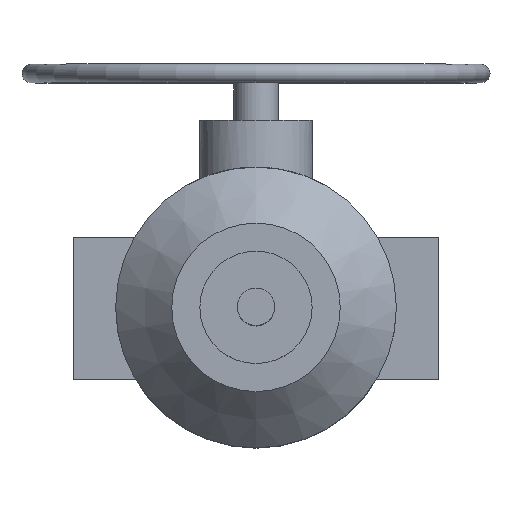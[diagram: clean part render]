
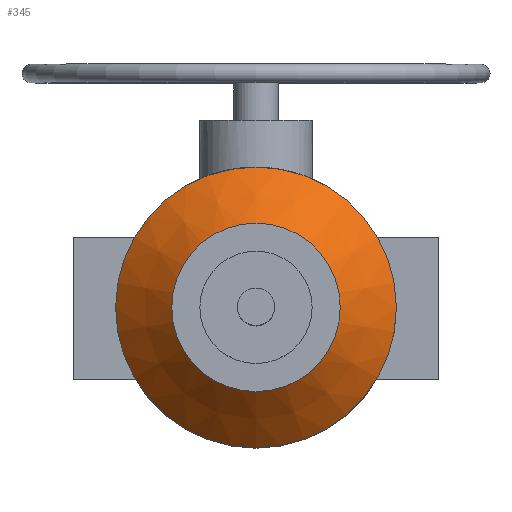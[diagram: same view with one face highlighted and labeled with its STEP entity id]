
A CAD part, top view. The second image highlights one B-rep face of the part: STEP entity #345.
In plain terms, the highlighted conical face has half-angle 45 degrees and reference radius 60 mm.
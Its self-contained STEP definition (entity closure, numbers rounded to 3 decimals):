
#345=ADVANCED_FACE('',(#1293,#1295),#1297,.T.);
#1293=FACE_BOUND('',#1294,.T.);
#1294=EDGE_LOOP('',(#2092,#2093));
#1295=FACE_OUTER_BOUND('',#1296,.T.);
#1296=EDGE_LOOP('',(#2094));
#1297=CONICAL_SURFACE('',#1298,60.,0.785);
#1298=AXIS2_PLACEMENT_3D('',#1299,#1300,#1301);
#1299=CARTESIAN_POINT('',(0.,0.,475.));
#1300=DIRECTION('',(0.,0.,-1.));
#1301=DIRECTION('',(0.,-1.,0.));
#2092=ORIENTED_EDGE('',*,*,#2534,.F.);
#2093=ORIENTED_EDGE('',*,*,#2535,.F.);
#2094=ORIENTED_EDGE('',*,*,#2482,.T.);
#2482=EDGE_CURVE('',#2781,#2781,#2782,.T.);
#2534=EDGE_CURVE('',#2877,#2878,#2879,.T.);
#2535=EDGE_CURVE('',#2878,#2877,#2880,.T.);
#2781=VERTEX_POINT('',#3343);
#2782=CIRCLE('',#3344,45.);
#2877=VERTEX_POINT('',#3557);
#2878=VERTEX_POINT('',#3558);
#2879=CIRCLE('',#3559,75.);
#2880=CIRCLE('',#3563,75.);
#3343=CARTESIAN_POINT('',(0.,-45.,490.));
#3344=AXIS2_PLACEMENT_3D('',#3345,#3346,#3347);
#3345=CARTESIAN_POINT('',(0.,0.,490.));
#3346=DIRECTION('',(0.,0.,-1.));
#3347=DIRECTION('',(0.,-1.,0.));
#3557=CARTESIAN_POINT('',(0.,-75.,460.));
#3558=CARTESIAN_POINT('',(0.,75.,460.));
#3559=AXIS2_PLACEMENT_3D('',#3560,#3561,#3562);
#3560=CARTESIAN_POINT('',(0.,0.,460.));
#3561=DIRECTION('',(0.,0.,-1.));
#3562=DIRECTION('',(0.,-1.,0.));
#3563=AXIS2_PLACEMENT_3D('',#3564,#3565,#3566);
#3564=CARTESIAN_POINT('',(0.,0.,460.));
#3565=DIRECTION('',(0.,0.,-1.));
#3566=DIRECTION('',(0.,1.,0.));
